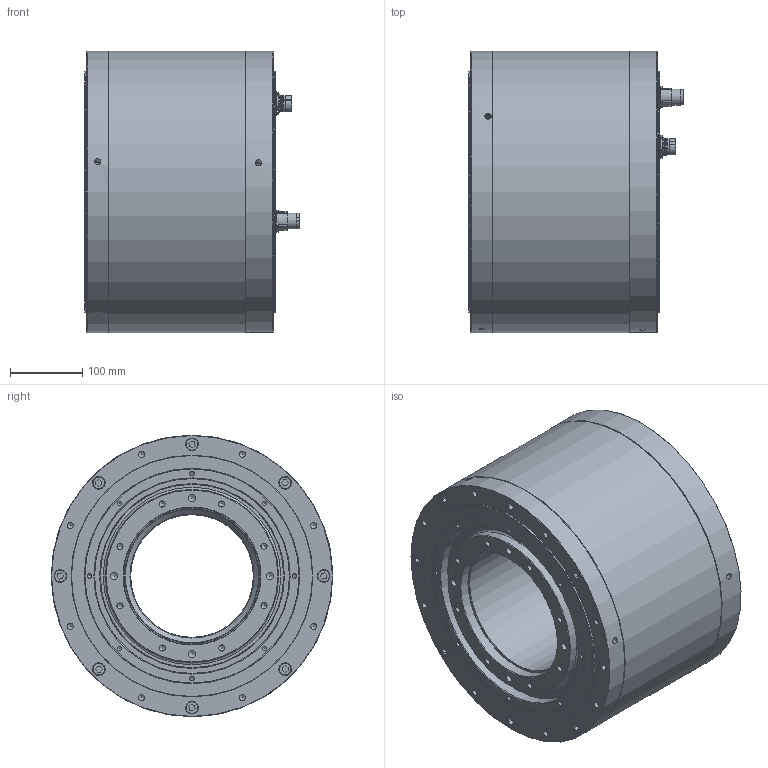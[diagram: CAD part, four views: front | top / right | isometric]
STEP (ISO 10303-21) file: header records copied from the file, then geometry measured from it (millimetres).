
FILE_DESCRIPTION( ( 'Unknown' ), '1' );
FILE_NAME( 'Q:/SKA DDR in acciaio/WEB File/SKA RT 335/3D/335CC048.stp', 'Unknown', ( 'Unknown' ), ( 'Unknown' ), 'PSStep 14.0', 'Unknown', ' ' );
FILE_SCHEMA( ( 'AUTOMOTIVE_DESIGN { 1 0 10303 214 1 1 1 1 }' ) );
Length unit declared in the file: millimetre
Products named in the file (17): Assem1; CN M23 PAN-POT BEGA 120 4 + 4 pin SpTcR; CN M23 PAN-SEG AEGA 139 17 pin SpTcR; 335FF019; 335VV017; 335FP006_rev3; 335FC001_rev3; Vite a brugola testa cil 12,9 -  M 10 x 40; Vite a brugola testa cil 8,8 -  M 2,5 x 8; Vite a brugola testa svasata 10,9 -  M  4 x 14; Vite a brugola testa cil 12,9 -  M 10 x 45; Anello OR 3 D270-oa0; Anello OR 3,53 D329,8-41300-oa1; Anello OR 3,53 D329,8-41300-oa2; Grano senza punta M  6 x 10; 335FS020; 335GG018_rev3
Assembly tree (52 placements, depth 2):
  Assem1
    CN M23 PAN-POT BEGA 120 4 + 4 pin SpTcR
    CN M23 PAN-SEG AEGA 139 17 pin SpTcR
    335FF019
    335VV017
    335FP006_rev3
    335FC001_rev3
    Vite a brugola testa cil 12,9 -  M 10 x 40  x8
    Vite a brugola testa cil 8,8 -  M 2,5 x 8  x15
    Vite a brugola testa svasata 10,9 -  M  4 x 14  x8
    Vite a brugola testa cil 12,9 -  M 10 x 45  x8
    Anello OR 3 D270-oa0
    Anello OR 3,53 D329,8-41300-oa1
    Anello OR 3,53 D329,8-41300-oa2
    Grano senza punta M  6 x 10  x2
    335FS020
    335GG018_rev3
Bounding box: 297.5 x 390 x 390 mm (x, y, z)
Volume: 15372376.5 mm3; surface area: 1735508.7 mm2
Topology: 52 solids, 52 shells, 1254 faces, 2871 edges, 1872 vertices
Faces by surface type: plane 585, cylinder 428, cone 201, torus 32, sphere 8
Full cylindrical faces by diameter (mm): 1.5 x4, 2 x17, 2.013 x8, 2.5 x19, 2.7 x4, 2.8 x4, 3.242 x20, 3.4 x8, 4 x10, 4.134 x12, 4.5 x8, 4.7 x15, 4.917 x2, 6 x10, 8.376 x68, 8.5 x8, 9 x2, 10 x24, 10.5 x24, 16 x16, 17 x2, 17.5 x16, 19.8 x2, 20 x3, 21 x2, 21.5 x2, 22 x2, 23 x2, 170 x1, 172 x1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
Entity records: 24652 total; most frequent: CARTESIAN_POINT 3663, DIRECTION 3532, ORIENTED_EDGE 2354, AXIS2_PLACEMENT_3D 1570, EDGE_LOOP 1440, EDGE_CURVE 1177, FACE_OUTER_BOUND 1075, VERTEX_POINT 1065
